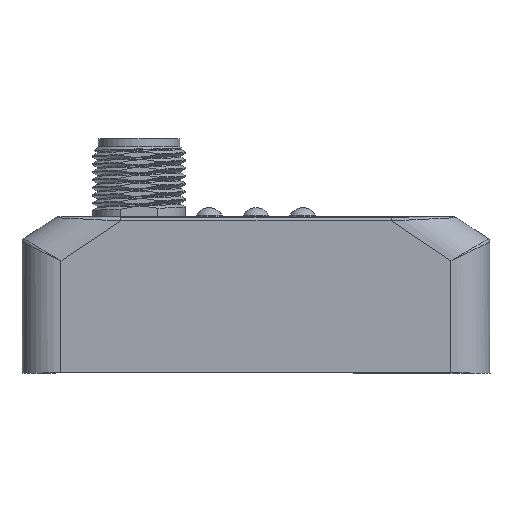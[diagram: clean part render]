
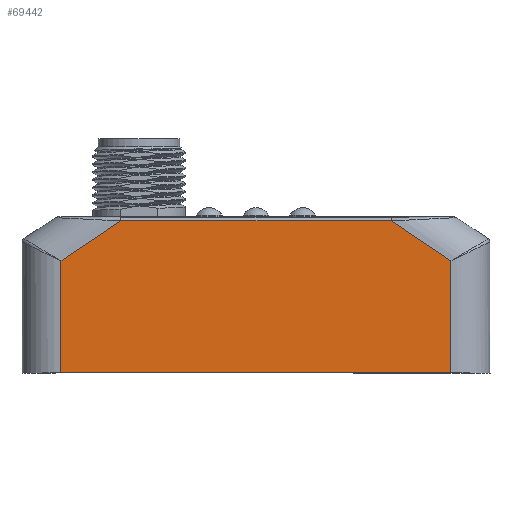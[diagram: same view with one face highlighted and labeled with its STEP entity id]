
A CAD part, left-side view. The second image highlights one B-rep face of the part: STEP entity #69442.
In plain terms, the highlighted planar face has unit normal (-1, 0, 0).
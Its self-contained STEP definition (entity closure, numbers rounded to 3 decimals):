
#4429=DIRECTION('',(0.,-1.,0.));
#4430=VECTOR('',#4429,34.683);
#4431=CARTESIAN_POINT('',(-70.,17.342,19.5));
#4432=LINE('',#4431,#4430);
#4591=DIRECTION('',(0.,0.832,-0.555));
#4592=VECTOR('',#4591,9.204);
#4593=CARTESIAN_POINT('',(-70.,17.342,19.5));
#4594=LINE('',#4593,#4592);
#4595=DIRECTION('',(0.,0.832,0.555));
#4596=VECTOR('',#4595,9.204);
#4597=CARTESIAN_POINT('',(-70.,-25.,14.394));
#4598=LINE('',#4597,#4596);
#4740=DIRECTION('',(0.,0.,-1.));
#4741=VECTOR('',#4740,14.394);
#4742=CARTESIAN_POINT('',(-70.,-25.,14.394));
#4743=LINE('',#4742,#4741);
#4829=DIRECTION('',(0.,1.,0.));
#4830=VECTOR('',#4829,50.);
#4831=CARTESIAN_POINT('',(-70.,-25.,0.));
#4832=LINE('',#4831,#4830);
#5029=DIRECTION('',(0.,0.,1.));
#5030=VECTOR('',#5029,14.394);
#5031=CARTESIAN_POINT('',(-70.,25.,0.));
#5032=LINE('',#5031,#5030);
#59938=CARTESIAN_POINT('',(-70.,-25.,14.394));
#59939=CARTESIAN_POINT('',(-70.,-25.,0.));
#59940=VERTEX_POINT('',#59938);
#59941=VERTEX_POINT('',#59939);
#60116=CARTESIAN_POINT('',(-70.,-17.342,
19.5));
#60117=VERTEX_POINT('',#60116);
#60866=CARTESIAN_POINT('',(-70.,25.,0.));
#60867=CARTESIAN_POINT('',(-70.,25.,14.394));
#60868=VERTEX_POINT('',#60866);
#60869=VERTEX_POINT('',#60867);
#61042=CARTESIAN_POINT('',(-70.,17.342,
19.5));
#61043=VERTEX_POINT('',#61042);
#69425=CARTESIAN_POINT('',(-70.,-17.5,20.));
#69426=DIRECTION('',(1.,0.,0.));
#69427=DIRECTION('',(0.,1.,0.));
#69428=AXIS2_PLACEMENT_3D('',#69425,#69426,#69427);
#69429=PLANE('',#69428);
#69431=ORIENTED_EDGE('',*,*,#69430,.F.);
#69432=ORIENTED_EDGE('',*,*,#69061,.T.);
#69433=ORIENTED_EDGE('',*,*,#69408,.F.);
#69435=ORIENTED_EDGE('',*,*,#69434,.T.);
#69437=ORIENTED_EDGE('',*,*,#69436,.T.);
#69439=ORIENTED_EDGE('',*,*,#69438,.T.);
#69440=EDGE_LOOP('',(#69431,#69432,#69433,#69435,#69437,#69439));
#69441=FACE_OUTER_BOUND('',#69440,.F.);
#69061=EDGE_CURVE('',#61043,#60117,#4432,.T.);
#69408=EDGE_CURVE('',#59940,#60117,#4598,.T.);
#69430=EDGE_CURVE('',#61043,#60869,#4594,.T.);
#69434=EDGE_CURVE('',#59940,#59941,#4743,.T.);
#69436=EDGE_CURVE('',#59941,#60868,#4832,.T.);
#69438=EDGE_CURVE('',#60868,#60869,#5032,.T.);
#69442=ADVANCED_FACE('',(#69441),#69429,.F.);
